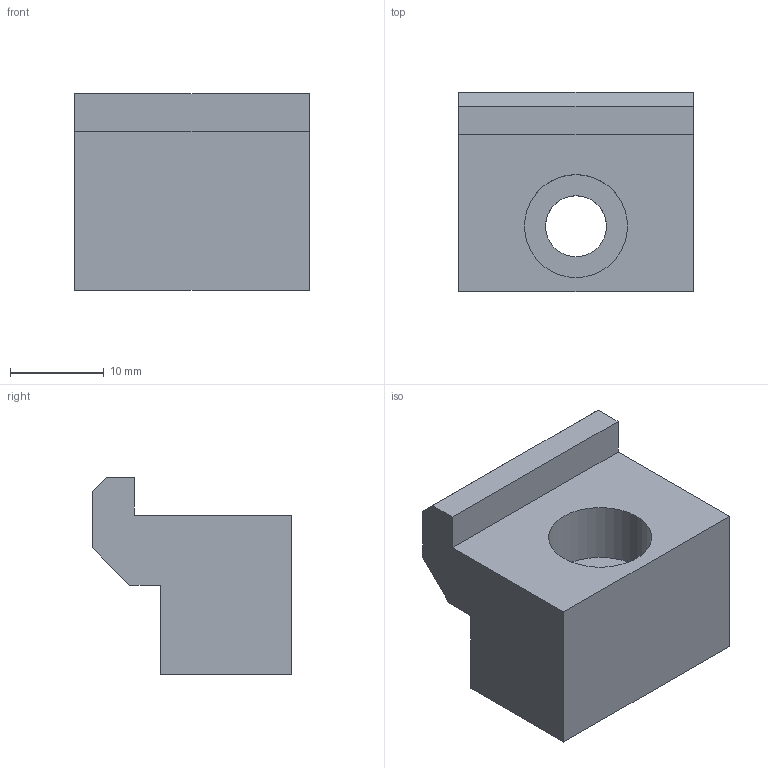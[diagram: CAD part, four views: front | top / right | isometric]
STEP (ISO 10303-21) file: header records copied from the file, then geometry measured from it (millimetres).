
FILE_DESCRIPTION((''),'2;1');
FILE_NAME('MB-01','2017-03-31T',('Owner'),(''),'PRO/ENGINEER BY PARAMETRIC TECHNOLOGY CORPORATION, 2009440','PRO/ENGINEER BY PARAMETRIC TECHNOLOGY CORPORATION, 2009440','');
FILE_SCHEMA(('CONFIG_CONTROL_DESIGN'));
Length unit declared in the file: millimetre
Products named in the file (1): MB-01
Bounding box: 25 x 21.3 x 21 mm (x, y, z)
Volume: 6574.5 mm3; surface area: 3010.4 mm2
Topology: 1 solids, 1 shells, 17 faces, 42 edges, 28 vertices
Faces by surface type: plane 13, cylinder 4
Entity records: 546 total; most frequent: CARTESIAN_POINT 87, DIRECTION 84, ORIENTED_EDGE 84, EDGE_CURVE 42, VECTOR 34, LINE 34, VERTEX_POINT 28, AXIS2_PLACEMENT_3D 25
